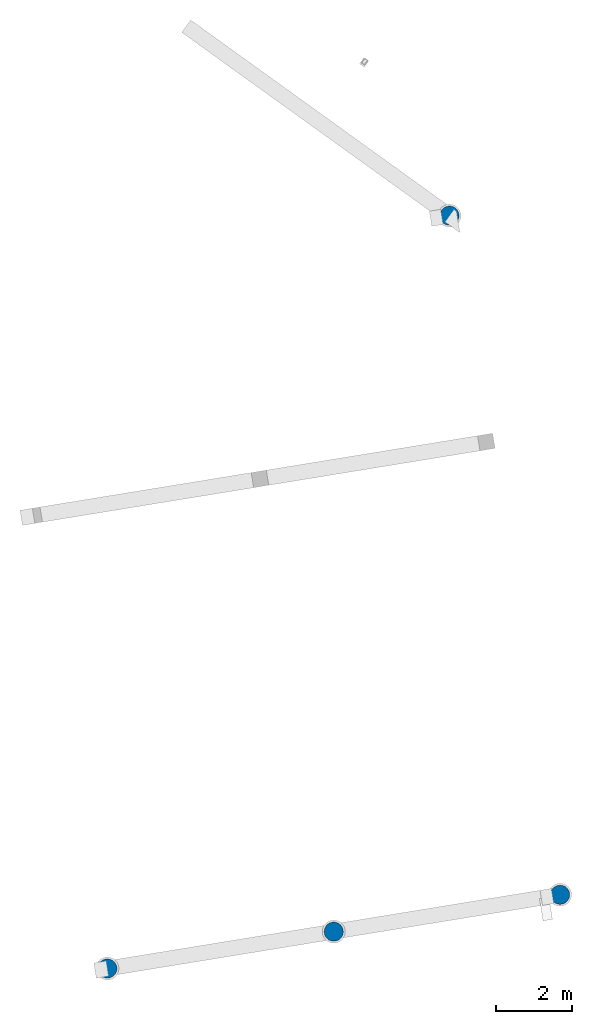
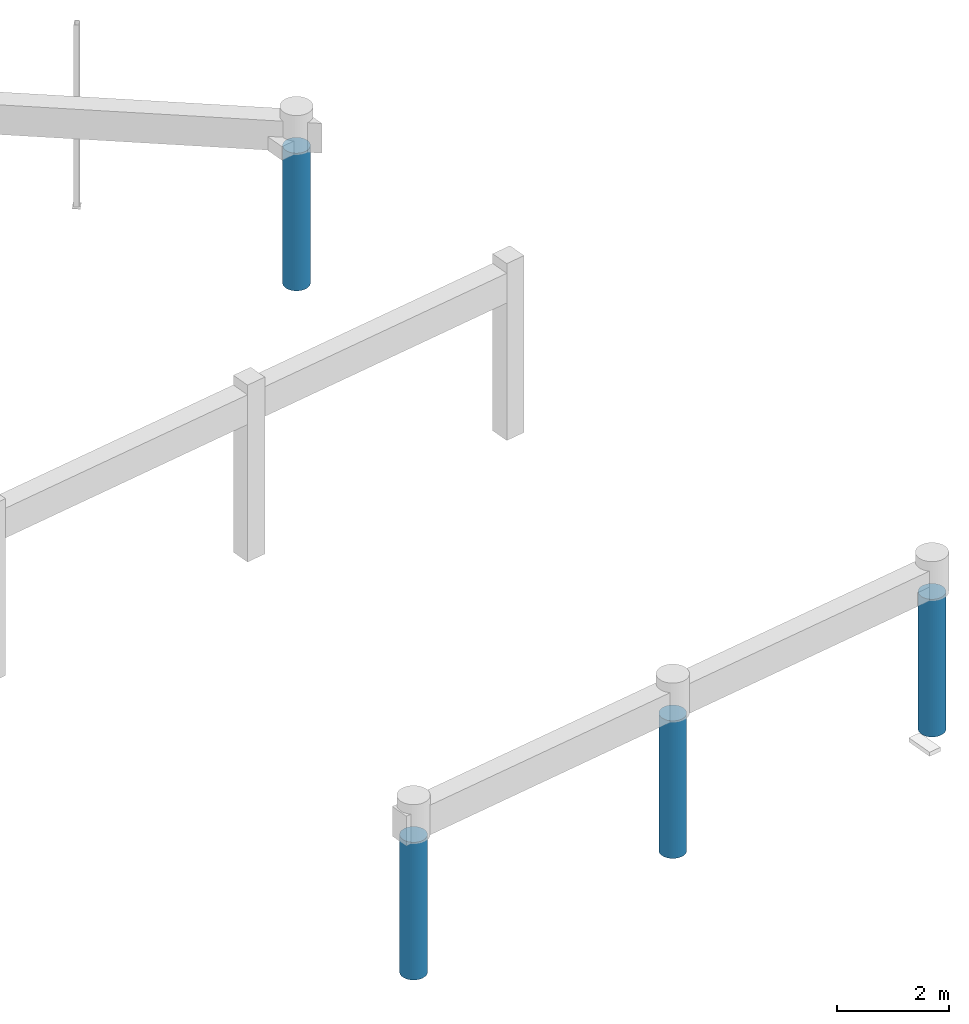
# One storey, part 1 of 4: 4 columns.
"""IFC2X3 building model written with IfcOpenShell, lengths in millimetres."""

from ifc_helpers import new_model, entity, si_unit, converted_unit, derived_unit, direction, frame, origin, origin_with_axes, place, context, subcontext, project, spatial, polyline, outline, extrude, type_object, element, save


model = new_model("IFC2X3")

# Units and contexts
model_context = context("Model", 3, precision=0.01, world=origin(), true_north=direction((6.12323399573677e-17, 1.0)))
plan_context = context("Plan", 3, precision=1e-05, world=origin_with_axes())
body_context = subcontext(model_context, "Body", "Model", "MODEL_VIEW")
ifc_project = project(units=[converted_unit("PLANEANGLEUNIT", "DEGREE", entity("IfcPositiveLengthMeasure", 0.0174532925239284), si_unit("PLANEANGLEUNIT", "RADIAN"), dimensions=[0, 0, 0, 0, 0, 0, 0]), si_unit("AREAUNIT", "SQUARE_METRE"), si_unit("LENGTHUNIT", "METRE", prefix="MILLI"), si_unit("MASSUNIT", "GRAM", prefix="KILO"), si_unit("POWERUNIT", "WATT"), si_unit("PRESSUREUNIT", "PASCAL", prefix="KILO"), si_unit("FORCEUNIT", "NEWTON", prefix="KILO"), si_unit("ELECTRICVOLTAGEUNIT", "VOLT"), si_unit("ELECTRICCURRENTUNIT", "AMPERE"), si_unit("THERMODYNAMICTEMPERATUREUNIT", "DEGREE_CELSIUS"), si_unit("TIMEUNIT", "SECOND"), si_unit("VOLUMEUNIT", "CUBIC_METRE"), derived_unit("LINEARVELOCITYUNIT", [(si_unit("LENGTHUNIT", "METRE"), 1), (si_unit("TIMEUNIT", "SECOND"), -1)]), derived_unit("VOLUMETRICFLOWRATEUNIT", [(si_unit("VOLUMEUNIT", "CUBIC_METRE"), 1), (si_unit("TIMEUNIT", "SECOND"), -1)]), derived_unit("THERMALTRANSMITTANCEUNIT", [(si_unit("POWERUNIT", "WATT"), 1), (si_unit("THERMODYNAMICTEMPERATUREUNIT", "KELVIN"), -1), (si_unit("AREAUNIT", "SQUARE_METRE"), -1)]), derived_unit("SOUNDPRESSUREUNIT", [(si_unit("PRESSUREUNIT", "PASCAL"), 1)])], contexts=[model_context, plan_context])

# Site, building, storey
site_placement = place(None, frame((5.09380697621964e-08, 5.80416781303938e-08, 0.0), z_axis=(0.0, 0.0, 1.0), x_axis=(-0.160806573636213, 0.986985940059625, 0.0)))
site = spatial("IfcSite", under=ifc_project, at=site_placement, Name="Default", CompositionType="ELEMENT")
building_placement = place(site_placement, frame((0.0, 0.0, 0.0), z_axis=(0.0, 0.0, 1.0), x_axis=(1.0, -2.77555756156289e-17, 0.0)))
building = spatial("IfcBuilding", under=site, at=building_placement, CompositionType="ELEMENT")
storey_placement = place(building_placement, frame((0.0, 0.0, 55500.0), z_axis=(0.0, 0.0, 1.0), x_axis=(1.0, -2.77555756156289e-17, 0.0)))
storey = spatial("IfcBuildingStorey", under=building, at=storey_placement, Name="H02-Nivå F-3,5 m", CompositionType="ELEMENT", Elevation=55500.0)

# Columns
column_type = type_object("IfcColumnType", Name="D500", PredefinedType="NOTDEFINED")
column_1_placement = place(storey_placement, frame((0.0, 0.0, 0.0), z_axis=(0.0, 0.0, 1.0), x_axis=(1.0, -2.77555756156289e-17, 0.0)))
element("IfcColumn", 1, at=column_1_placement, inside=storey, type_object=column_type, Name="PLASSTØPTSØYLE", ObjectType="D500", context=body_context, shape_type="SweptSolid", body=[
    extrude(outline(polyline([(-19.6147739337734, -249.229333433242), (19.6147739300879, -249.229333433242), (58.3613409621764, -243.092480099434), (95.6708580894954, -230.969883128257), (130.62464117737, -213.160041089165), (162.362012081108, -190.101491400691), (190.101491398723, -162.362012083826), (213.160041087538, -130.624641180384), (230.969883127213, -95.6708580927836), (243.092480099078, -58.3613409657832), (249.229333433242, -19.6147739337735), (249.229333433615, 19.614773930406), (243.092480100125, 58.361340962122), (230.969883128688, 95.6708580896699), (213.160041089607, 130.624641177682), (190.101491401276, 162.362012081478), (162.362012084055, 190.101491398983), (130.624641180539, 213.160041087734), (95.6708580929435, 230.969883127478), (58.3613409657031, 243.092480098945), (19.6147739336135, 249.229333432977), (-19.6147739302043, 249.22933343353), (-58.3613409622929, 243.092480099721), (-95.6708580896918, 230.969883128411), (-130.624641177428, 213.160041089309), (-162.362012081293, 190.101491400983), (-190.101491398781, 162.36201208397), (-213.160041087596, 130.624641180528), (-230.969883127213, 95.6708580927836), (-243.092480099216, 58.3613409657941), (-249.229333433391, 19.6147739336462), (-249.229333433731, -19.6147739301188), (-243.092480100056, -58.3613409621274), (-230.969883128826, -95.670858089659), (-213.160041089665, -130.624641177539), (-190.101491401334, -162.362012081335), (-162.362012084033, -190.101491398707), (-130.624641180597, -213.16004108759), (-95.6708580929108, -230.969883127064), (-58.3613409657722, -243.09248009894), (-19.6147739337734, -249.229333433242)])), frame((1010638.58299665, -396380.248874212, -70.0), z_axis=(0.0, 0.0, 1.0), x_axis=(0.0784642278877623, -0.996916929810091, 0.0)), (0.0, 0.0, 1.0), 3009.99999999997),
])
column_2_placement = place(storey_placement, frame((0.0, 0.0, 0.0), z_axis=(0.0, 0.0, 1.0), x_axis=(1.0, -2.77555756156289e-17, 0.0)))
element("IfcColumn", 2, at=column_2_placement, inside=storey, type_object=column_type, Name="PLASSTØPTSØYLE", ObjectType="D500", context=body_context, shape_type="SweptSolid", body=[
    extrude(outline(polyline([(-19.6147739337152, -249.229333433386), (19.6147739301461, -249.229333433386), (58.361340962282, -243.092480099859), (95.6708580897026, -230.969883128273), (130.624641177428, -213.160041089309), (162.362012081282, -190.101491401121), (190.101491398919, -162.362012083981), (213.160041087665, -130.624641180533), (230.96988312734, -95.6708580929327), (243.092480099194, -58.3613409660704), (249.229333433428, -19.6147739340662), (249.229333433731, 19.6147739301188), (243.092480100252, 58.3613409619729), (230.969883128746, 95.6708580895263), (213.160041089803, 130.624641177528), (190.101491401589, 162.362012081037), (162.362012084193, 190.101491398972), (130.624641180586, 213.160041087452), (95.6708580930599, 230.969883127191), (58.3613409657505, 243.092480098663), (19.6147739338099, 249.229333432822), (-19.6147739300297, 249.229333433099), (-58.3613409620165, 243.092480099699), (-95.6708580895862, 230.969883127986), (-130.62464117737, 213.160041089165), (-162.362012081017, 190.101491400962), (-190.101491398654, 162.362012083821), (-213.160041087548, 130.624641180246), (-230.969883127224, 95.6708580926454), (-243.0924800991, 58.3613409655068), (-249.229333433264, 19.6147739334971), (-249.229333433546, -19.6147739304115), (-243.09248009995, -58.3613409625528), (-230.96988312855, -95.6708580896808), (-213.160041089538, -130.624641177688), (-190.101491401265, -162.36201208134), (-162.362012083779, -190.101491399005), (-130.62464118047, -213.160041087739), (-95.6708580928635, -230.969883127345), (-58.3613409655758, -243.092480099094), (-19.6147739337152, -249.229333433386)])), frame((992638.556480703, -390380.328417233, -70.0), z_axis=(0.0, 0.0, 1.0), x_axis=(0.0784642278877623, -0.996916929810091, 0.0)), (0.0, 0.0, 1.0), 3009.99999999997),
])
column_3_placement = place(storey_placement, frame((0.0, 0.0, 0.0), z_axis=(0.0, 0.0, 1.0), x_axis=(1.0, -2.77555756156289e-17, 0.0)))
element("IfcColumn", 3, at=column_3_placement, inside=storey, type_object=column_type, Name="PLASSTØPTSØYLE", ObjectType="D500", context=body_context, shape_type="SweptSolid", body=[
    extrude(outline(polyline([(-19.6147739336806, -249.229333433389), (19.6147739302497, -249.229333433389), (58.3613409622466, -243.092480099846), (95.6708580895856, -230.969883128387), (130.624641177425, -213.160041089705), (162.362012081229, -190.101491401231), (190.101491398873, -162.362012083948), (213.160041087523, -130.624641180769), (230.969883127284, -95.6708580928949), (243.092480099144, -58.3613409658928), (249.229333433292, -19.6147739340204), (249.22933343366, 19.6147739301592), (243.092480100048, 58.3613409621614), (230.969883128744, 95.6708580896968), (213.160041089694, 130.624641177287), (190.101491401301, 162.362012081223), (162.362012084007, 190.101491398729), (130.624641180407, 213.160041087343), (95.6708580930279, 230.969883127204), (58.3613409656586, 243.092480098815), (19.6147739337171, 249.229333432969), (-19.6147739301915, 249.229333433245), (-58.3613409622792, 243.092480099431), (-95.6708580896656, 230.969883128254), (-130.624641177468, 213.160041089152), (-162.362012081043, 190.101491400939), (-190.101491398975, 162.362012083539), (-213.160041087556, 130.624641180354), (-230.969883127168, 95.6708580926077), (-243.092480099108, 58.3613409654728), (-249.229333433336, 19.6147739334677), (-249.229333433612, -19.614773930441), (-243.0924801, -58.3613409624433), (-230.969883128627, -95.6708580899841), (-213.160041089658, -130.624641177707), (-190.101491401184, -162.362012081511), (-162.362012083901, -190.101491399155), (-130.624641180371, -213.160041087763), (-95.6708580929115, -230.969883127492), (-58.3613409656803, -243.092480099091), (-19.6147739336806, -249.229333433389)])), frame((992638.529965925, -384380.328417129, -70.0), z_axis=(0.0, 0.0, 1.0), x_axis=(0.0784642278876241, -0.996916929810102, 0.0)), (0.0, 0.0, 1.0), 3009.99999999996),
])
column_4_placement = place(storey_placement, frame((0.0, 0.0, 0.0), z_axis=(0.0, 0.0, 1.0), x_axis=(1.0, -2.77555756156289e-17, 0.0)))
element("IfcColumn", 4, at=column_4_placement, inside=storey, type_object=column_type, Name="PLASSTØPTSØYLE", ObjectType="D500", context=body_context, shape_type="SweptSolid", body=[
    extrude(outline(polyline([(-19.6147739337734, -249.229333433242), (19.6147739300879, -249.229333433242), (58.3613409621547, -243.09248009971), (95.6708580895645, -230.969883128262), (130.624641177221, -213.160041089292), (162.362012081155, -190.101491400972), (190.101491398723, -162.362012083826), (213.160041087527, -130.624641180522), (230.969883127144, -95.6708580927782), (243.092480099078, -58.3613409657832), (249.229333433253, -19.6147739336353), (249.229333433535, 19.6147739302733), (243.092480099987, 58.3613409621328), (230.969883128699, 95.6708580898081), (213.160041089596, 130.624641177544), (190.101491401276, 162.362012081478), (162.362012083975, 190.10149139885), (130.62464118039, 213.160041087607), (95.6708580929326, 230.96988312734), (58.3613409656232, 243.092480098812), (19.6147739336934, 249.22933343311), (-19.6147739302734, 249.229333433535), (-58.3613409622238, 243.092480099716), (-95.6708580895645, 230.969883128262), (-130.624641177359, 213.160041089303), (-162.362012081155, 190.101491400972), (-190.101491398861, 162.362012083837), (-213.160041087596, 130.624641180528), (-230.969883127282, 95.6708580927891), (-243.092480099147, 58.3613409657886), (-249.229333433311, 19.6147739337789), (-249.229333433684, -19.6147739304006), (-243.092480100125, -58.361340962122), (-230.969883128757, -95.6708580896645), (-213.160041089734, -130.624641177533), (-190.101491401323, -162.362012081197), (-162.362012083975, -190.10149139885), (-130.624641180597, -213.16004108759), (-95.6708580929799, -230.969883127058), (-58.3613409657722, -243.09248009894), (-19.6147739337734, -249.229333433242)])), frame((992638.582995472, -396380.328417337, -70.0), z_axis=(0.0, 0.0, 1.0), x_axis=(0.0784642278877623, -0.996916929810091, 0.0)), (0.0, 0.0, 1.0), 3009.99999999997),
])

save(model, "model.ifc")
